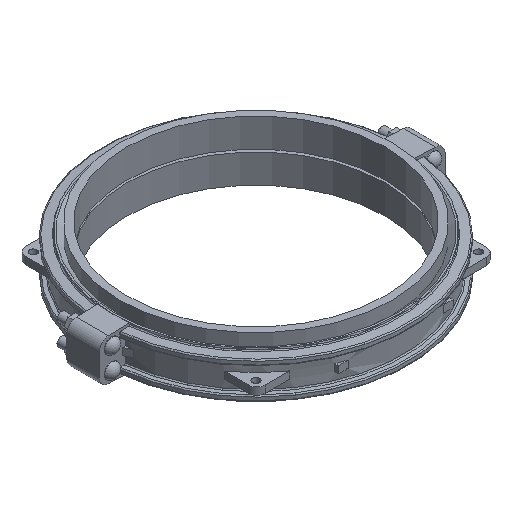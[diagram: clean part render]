
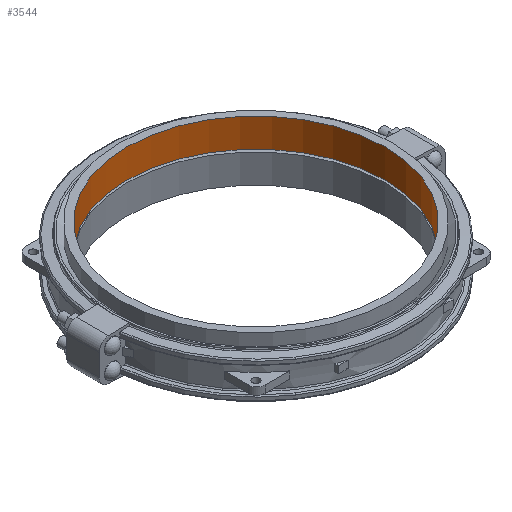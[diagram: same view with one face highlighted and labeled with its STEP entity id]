
A CAD part, isometric view. The second image highlights one B-rep face of the part: STEP entity #3544.
In plain terms, the highlighted cylindrical face has radius 457.2 mm (diameter 914.4 mm), a full revolution.
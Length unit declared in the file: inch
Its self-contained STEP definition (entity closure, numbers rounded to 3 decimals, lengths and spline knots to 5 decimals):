
#158=CYLINDRICAL_SURFACE('',#3979,18.);
#382=FACE_OUTER_BOUND('',#606,.T.);
#606=EDGE_LOOP('',(#3060,#3061,#3062,#3063,#3064,#3065));
#865=LINE('',#6479,#1122);
#1122=VECTOR('',#4960,18.);
#1291=CIRCLE('',#3977,18.);
#1292=CIRCLE('',#3978,18.);
#1293=CIRCLE('',#3980,18.);
#1294=CIRCLE('',#3981,18.);
#1623=VERTEX_POINT('',#6473);
#1624=VERTEX_POINT('',#6474);
#1625=VERTEX_POINT('',#6478);
#1626=VERTEX_POINT('',#6480);
#2103=EDGE_CURVE('',#1623,#1624,#1291,.T.);
#2104=EDGE_CURVE('',#1624,#1623,#1292,.T.);
#2105=EDGE_CURVE('',#1624,#1625,#865,.T.);
#2106=EDGE_CURVE('',#1626,#1625,#1293,.T.);
#2107=EDGE_CURVE('',#1625,#1626,#1294,.T.);
#3060=ORIENTED_EDGE('',*,*,#2103,.T.);
#3061=ORIENTED_EDGE('',*,*,#2105,.T.);
#3062=ORIENTED_EDGE('',*,*,#2106,.F.);
#3063=ORIENTED_EDGE('',*,*,#2107,.F.);
#3064=ORIENTED_EDGE('',*,*,#2105,.F.);
#3065=ORIENTED_EDGE('',*,*,#2104,.T.);
#3544=ADVANCED_FACE('',(#382),#158,.F.);
#3977=AXIS2_PLACEMENT_3D('',#6475,#4954,#4955);
#3978=AXIS2_PLACEMENT_3D('',#6476,#4956,#4957);
#3979=AXIS2_PLACEMENT_3D('',#6477,#4958,#4959);
#3980=AXIS2_PLACEMENT_3D('',#6481,#4961,#4962);
#3981=AXIS2_PLACEMENT_3D('',#6482,#4963,#4964);
#4954=DIRECTION('center_axis',(0.,0.,-1.));
#4955=DIRECTION('ref_axis',(1.,0.,0.));
#4956=DIRECTION('center_axis',(0.,0.,-1.));
#4957=DIRECTION('ref_axis',(1.,0.,0.));
#4958=DIRECTION('center_axis',(0.,0.,-1.));
#4959=DIRECTION('ref_axis',(0.,1.,0.));
#4960=DIRECTION('',(0.,0.,1.));
#4961=DIRECTION('center_axis',(0.,0.,-1.));
#4962=DIRECTION('ref_axis',(1.,0.,0.));
#4963=DIRECTION('center_axis',(0.,0.,-1.));
#4964=DIRECTION('ref_axis',(1.,0.,0.));
#6473=CARTESIAN_POINT('',(0.,18.,0.));
#6474=CARTESIAN_POINT('',(0.,-18.,0.));
#6475=CARTESIAN_POINT('Origin',(0.,0.,0.));
#6476=CARTESIAN_POINT('Origin',(0.,0.,0.));
#6477=CARTESIAN_POINT('Origin',(0.,0.,2.));
#6478=CARTESIAN_POINT('',(0.,-18.,4.));
#6479=CARTESIAN_POINT('',(0.,-18.,2.));
#6480=CARTESIAN_POINT('',(0.,18.,4.));
#6481=CARTESIAN_POINT('Origin',(0.,0.,4.));
#6482=CARTESIAN_POINT('Origin',(0.,0.,4.));
